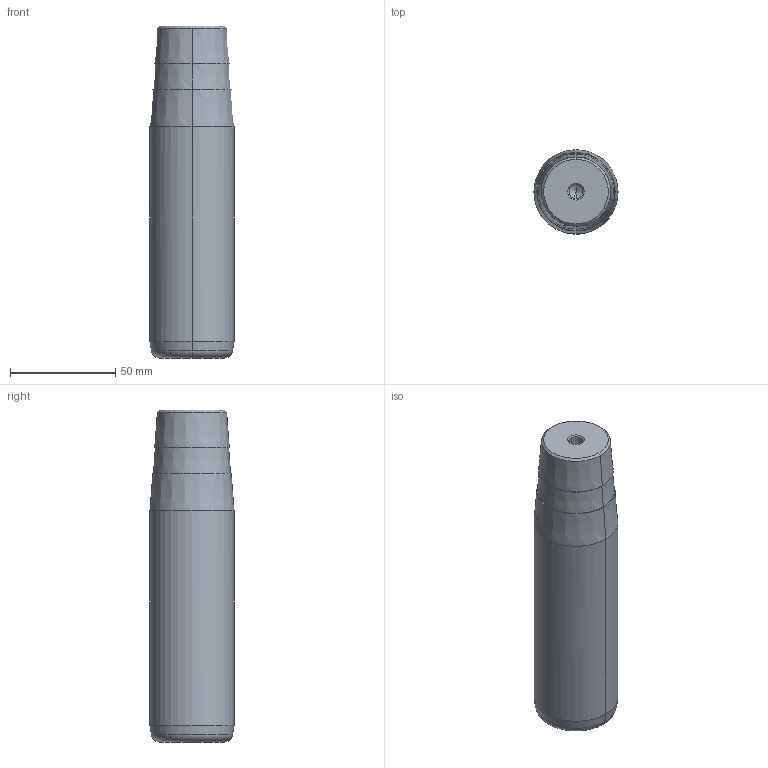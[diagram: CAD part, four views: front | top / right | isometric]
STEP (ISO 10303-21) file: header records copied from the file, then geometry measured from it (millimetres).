
FILE_DESCRIPTION(('CATIA V5 STEP Exchange'),'2;1');
FILE_NAME('C:\Users\Utente\Desktop\IO LAVORO\3D X SITO CF\X SITO\722\722-40x125x158.stp','2021-01-08T15:38:26+00:00',('none'),('none'),'CATIA Version 5 Release 20 GA (IN-10)','CATIA V5 STEP AP203','none');
FILE_SCHEMA(('CONFIG_CONTROL_DESIGN'));
Length unit declared in the file: millimetre
Products named in the file (1): 722-40x125x158
Bounding box: 40 x 40 x 158 mm (x, y, z)
Volume: 185188.1 mm3; surface area: 22191.7 mm2
Topology: 1 solids, 1 shells, 32 faces, 98 edges, 66 vertices
Faces by surface type: cone 22, cylinder 6, plane 2, torus 2
Entity records: 1166 total; most frequent: CARTESIAN_POINT 279, ORIENTED_EDGE 188, DIRECTION 148, EDGE_CURVE 94, AXIS2_PLACEMENT_3D 89, VERTEX_POINT 66, CIRCLE 56, EDGE_LOOP 34
